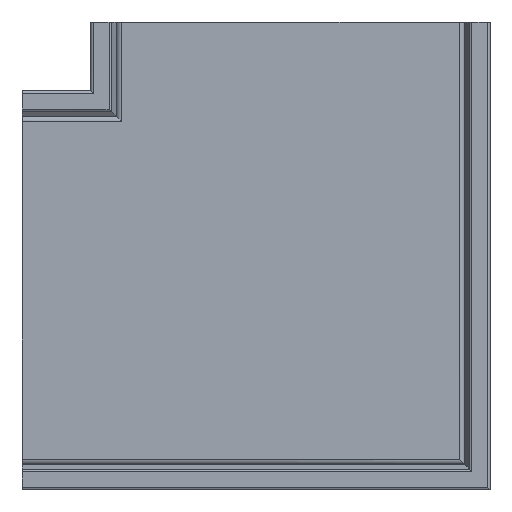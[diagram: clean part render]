
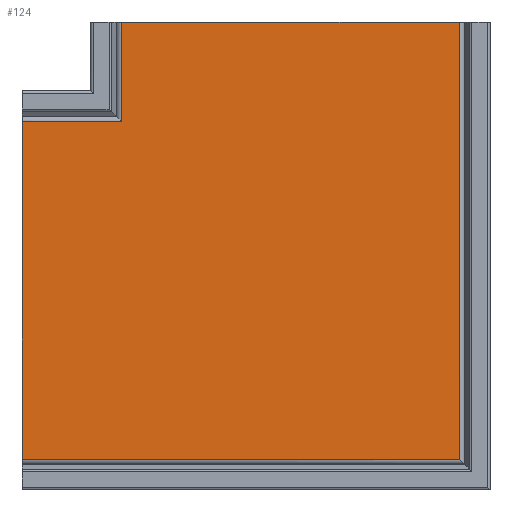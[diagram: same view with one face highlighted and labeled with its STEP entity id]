
A CAD part, front view. The second image highlights one B-rep face of the part: STEP entity #124.
In plain terms, the highlighted planar face has unit normal (0, -1, 0).
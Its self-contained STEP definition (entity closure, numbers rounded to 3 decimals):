
#76=PLANE('',#1472);
#124=ADVANCED_FACE('',(#234),#76,.T.);
#234=FACE_OUTER_BOUND('',#312,.T.);
#312=EDGE_LOOP('',(#732,#733,#734,#735,#736,#737));
#403=LINE('',#1869,#555);
#413=LINE('',#1900,#565);
#417=LINE('',#1910,#569);
#418=LINE('',#1917,#570);
#419=LINE('',#1919,#571);
#420=LINE('',#1921,#572);
#555=VECTOR('',#1550,1.);
#565=VECTOR('',#1566,1.);
#569=VECTOR('',#1576,1.);
#570=VECTOR('',#1577,1.);
#571=VECTOR('',#1578,1.);
#572=VECTOR('',#1579,1.);
#732=ORIENTED_EDGE('',*,*,#1254,.F.);
#733=ORIENTED_EDGE('',*,*,#1248,.T.);
#734=ORIENTED_EDGE('',*,*,#1235,.F.);
#735=ORIENTED_EDGE('',*,*,#1253,.F.);
#736=ORIENTED_EDGE('',*,*,#1255,.F.);
#737=ORIENTED_EDGE('',*,*,#1256,.F.);
#1106=VERTEX_POINT('',#1861);
#1109=VERTEX_POINT('',#1868);
#1111=VERTEX_POINT('',#1878);
#1124=VERTEX_POINT('',#1909);
#1125=VERTEX_POINT('',#1918);
#1126=VERTEX_POINT('',#1920);
#1235=EDGE_CURVE('',#1109,#1106,#403,.T.);
#1248=EDGE_CURVE('',#1111,#1106,#413,.T.);
#1253=EDGE_CURVE('',#1124,#1109,#417,.T.);
#1254=EDGE_CURVE('',#1111,#1125,#418,.T.);
#1255=EDGE_CURVE('',#1126,#1124,#419,.T.);
#1256=EDGE_CURVE('',#1125,#1126,#420,.T.);
#1472=AXIS2_PLACEMENT_3D('',#1922,#1580,#1581);
#1550=DIRECTION('',(0.,0.,1.));
#1566=DIRECTION('',(-1.,0.,0.));
#1576=DIRECTION('',(1.,0.,0.));
#1577=DIRECTION('',(0.,0.,-1.));
#1578=DIRECTION('',(0.,0.,1.));
#1579=DIRECTION('',(-1.,0.,0.));
#1580=DIRECTION('',(0.,-1.,0.));
#1581=DIRECTION('',(-0.707,0.,0.707));
#1861=CARTESIAN_POINT('',(-19.043,0.2,0.));
#1868=CARTESIAN_POINT('',(-19.043,0.2,-11.203));
#1869=CARTESIAN_POINT('',(-19.043,0.2,-5.602));
#1878=CARTESIAN_POINT('',(19.043,0.2,0.));
#1900=CARTESIAN_POINT('',(0.,0.2,0.));
#1909=CARTESIAN_POINT('',(-30.246,0.2,-11.203));
#1910=CARTESIAN_POINT('',(-24.645,0.2,-11.203));
#1917=CARTESIAN_POINT('',(19.043,0.2,-24.645));
#1918=CARTESIAN_POINT('',(19.043,0.2,-49.289));
#1919=CARTESIAN_POINT('',(-30.246,0.2,-30.246));
#1920=CARTESIAN_POINT('',(-30.246,0.2,-49.289));
#1921=CARTESIAN_POINT('',(-5.602,0.2,-49.289));
#1922=CARTESIAN_POINT('',(0.,0.2,-30.246));
